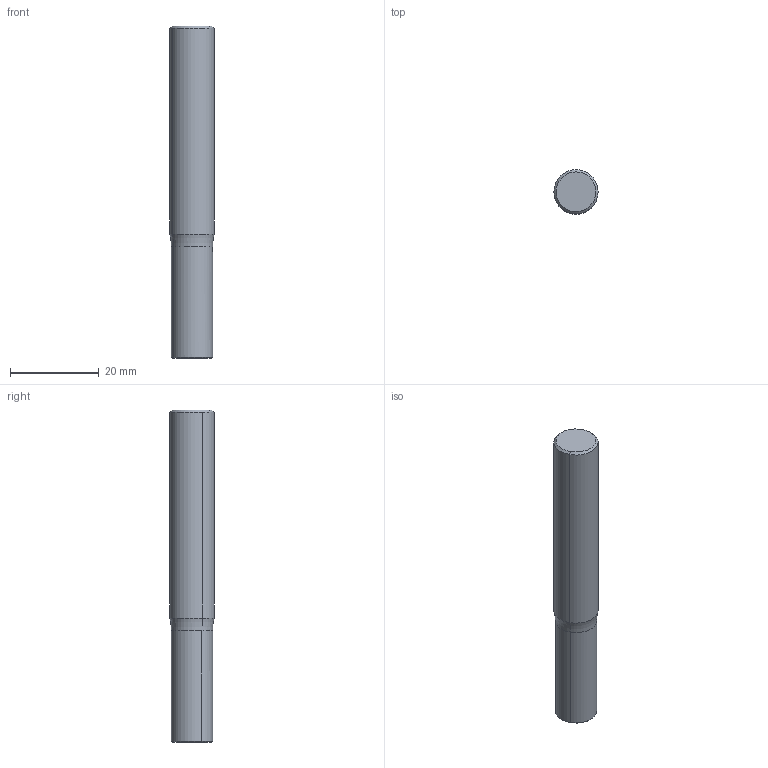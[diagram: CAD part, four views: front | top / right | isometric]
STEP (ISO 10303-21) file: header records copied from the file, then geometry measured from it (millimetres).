
FILE_DESCRIPTION(('CATIA V5 STEP','CAx-IF Rec.Pracs.--- Model Styling and Organization---1.2---2011-12-15'),'2;1');
FILE_NAME('I:\isr\design\admin8\users\weaam_s\3105163L.stp','2018-01-23T11:50:52+00:00',('none'),('none'),'CATIA Version 5 Release 21 SP 5 (IN-10)','CATIA V5 STEP AP214','none');
FILE_SCHEMA(('AUTOMOTIVE_DESIGN { 1 0 10303 214 1 1 1 1 }'));
Length unit declared in the file: millimetre
Products named in the file (1): MM S-A-L075-C10-T06-N
Bounding box: 10 x 10 x 75 mm (x, y, z)
Volume: 5364.8 mm3; surface area: 2585.6 mm2
Topology: 1 solids, 1 shells, 23 faces, 48 edges, 27 vertices
Faces by surface type: cylinder 10, cone 6, torus 4, plane 3
Entity records: 662 total; most frequent: CARTESIAN_POINT 128, DIRECTION 96, ORIENTED_EDGE 92, AXIS2_PLACEMENT_3D 55, EDGE_CURVE 46, CIRCLE 28, VERTEX_POINT 27, EDGE_LOOP 25
